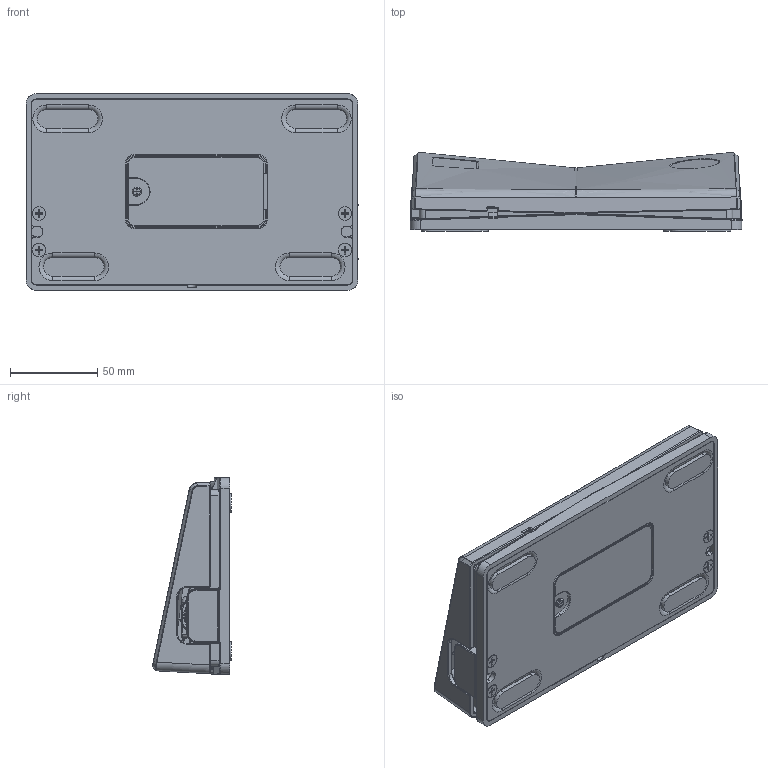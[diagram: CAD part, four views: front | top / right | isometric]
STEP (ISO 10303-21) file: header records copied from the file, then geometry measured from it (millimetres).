
FILE_DESCRIPTION (( 'STEP AP203' ), '1' );
FILE_NAME ('TFS9.STEP', '2021-03-04T07:25:06', ( '' ), ( '' ), 'SwSTEP 2.0', 'SolidWorks 2015', '' );
FILE_SCHEMA (( 'CONFIG_CONTROL_DESIGN' ));
Products named in the file (1): TFS9
Bounding box: 190 x 45.05 x 112.5 mm (x, y, z)
Volume: 289018.9 mm3; surface area: 244995.3 mm2
Topology: 24 solids, 24 shells, 3788 faces, 9914 edges, 6223 vertices
Faces by surface type: plane 1538, cylinder 1190, bspline 543, torus 306, cone 154, sphere 57
Entity records: 142760 total; most frequent: CARTESIAN_POINT 54483, ORIENTED_EDGE 19706, DIRECTION 16975, EDGE_CURVE 9853, VERTEX_POINT 6216, AXIS2_PLACEMENT_3D 6012, LINE 4951, VECTOR 4951
